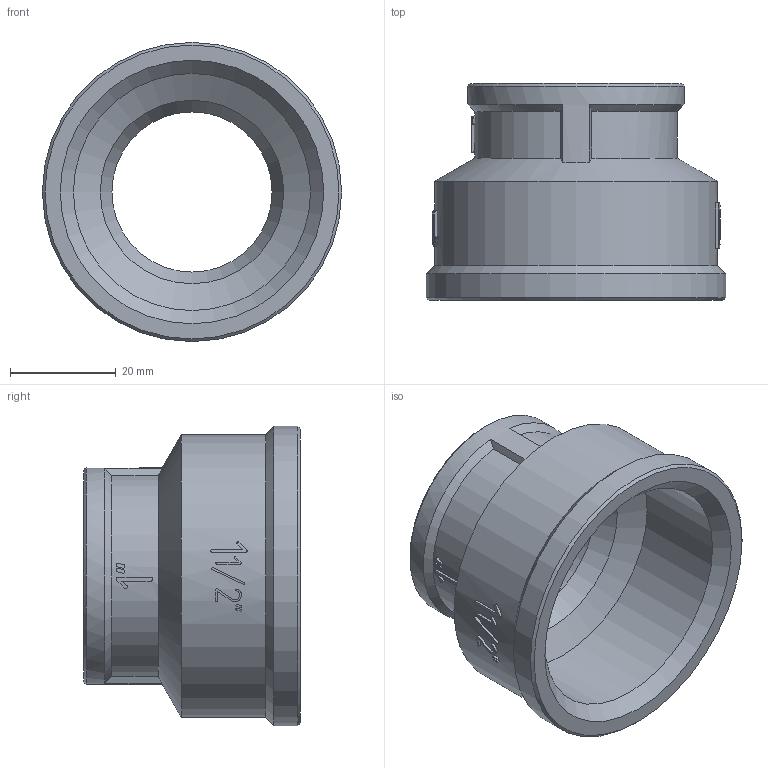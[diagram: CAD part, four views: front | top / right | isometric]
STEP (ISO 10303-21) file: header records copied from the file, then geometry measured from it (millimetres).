
FILE_DESCRIPTION(('STEP AP203'), '1');
FILE_NAME('ÂÐ.714361.001 - VTr.240.N.0806 Ìóôòà G1 1-2õG1', '2024-06-27T08:06:44', ('IT'), ('VESTA'), 'C3D Converter', 'C3D Toolkit', '');
FILE_SCHEMA(('CONFIG_CONTROL_DESIGN'));
Length unit declared in the file: millimetre
Products named in the file (1): ВР.714361.001
Bounding box: 56.6 x 41 x 56.6 mm (x, y, z)
Volume: 27220.7 mm3; surface area: 13604.5 mm2
Topology: 1 solids, 1 shells, 185 faces, 507 edges, 335 vertices
Faces by surface type: extrusion 96, plane 59, cylinder 20, cone 10
Full cylindrical faces by diameter (mm): 30.292 x1, 41 x1, 44.846 x1, 53.5 x1, 56.6 x1
Entity records: 7984 total; most frequent: CARTESIAN_POINT 3863, ORIENTED_EDGE 986, DIRECTION 544, EDGE_CURVE 493, VERTEX_POINT 335, B_SPLINE_CURVE_WITH_KNOTS 298, VECTOR 278, EDGE_LOOP 212
